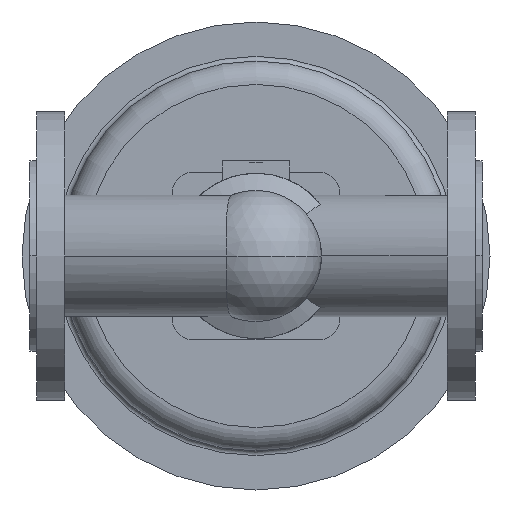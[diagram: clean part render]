
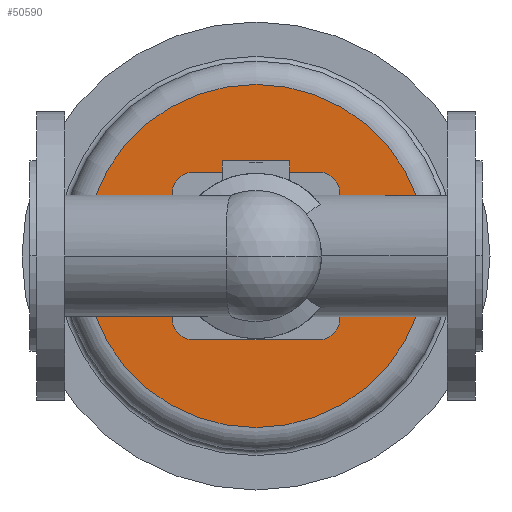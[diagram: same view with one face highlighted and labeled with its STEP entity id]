
A CAD part, front view. The second image highlights one B-rep face of the part: STEP entity #50590.
In plain terms, the highlighted planar face has unit normal (0, -1, 0).
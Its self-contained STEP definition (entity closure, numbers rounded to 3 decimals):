
#49810=CARTESIAN_POINT('',(163.45,617.5,0.));
#49820=VERTEX_POINT('',#49810);
#49850=CARTESIAN_POINT('',(145.,617.5,0.));
#49860=DIRECTION('',(0.,1.,0.));
#49870=DIRECTION('',(1.,0.,0.));
#49880=AXIS2_PLACEMENT_3D('',#49850,#49860,#49870);
#49890=CIRCLE('',#49880,18.45);
#49900=CARTESIAN_POINT('',(126.55,617.5,0.));
#49910=VERTEX_POINT('',#49900);
#49920=EDGE_CURVE('',#49820,#49910,#49890,.T.);
#50040=CARTESIAN_POINT('',(200.,617.5,0.));
#50050=DIRECTION('',(0.,-1.,0.));
#50060=DIRECTION('',(-1.,0.,0.));
#50070=AXIS2_PLACEMENT_3D('',#50040,#50050,#50060);
#50080=PLANE('',#50070);
#50090=ORIENTED_EDGE('',*,*,#49920,.T.);
#50100=EDGE_CURVE('',#49910,#49820,#49890,.T.);
#50110=ORIENTED_EDGE('',*,*,#50100,.T.);
#50120=EDGE_LOOP('',(#50110,#50090));
#50130=FACE_BOUND('',#50120,.T.);
#50140=CARTESIAN_POINT('',(95.,617.5,0.));
#50150=DIRECTION('',(0.,1.,0.));
#50160=DIRECTION('',(1.,0.,0.));
#50170=AXIS2_PLACEMENT_3D('',#50140,#50150,#50160);
#50180=CIRCLE('',#50170,15.);
#50190=CARTESIAN_POINT('',(110.,617.5,0.));
#50200=VERTEX_POINT('',#50190);
#50210=CARTESIAN_POINT('',(80.,617.5,0.));
#50220=VERTEX_POINT('',#50210);
#50230=EDGE_CURVE('',#50200,#50220,#50180,.T.);
#50240=ORIENTED_EDGE('',*,*,#50230,.T.);
#50250=EDGE_CURVE('',#50220,#50200,#50180,.T.);
#50260=ORIENTED_EDGE('',*,*,#50250,.T.);
#50270=EDGE_LOOP('',(#50260,#50240));
#50280=FACE_BOUND('',#50270,.T.);
#50290=CARTESIAN_POINT('',(195.,617.5,0.));
#50300=DIRECTION('',(0.,1.,0.));
#50310=DIRECTION('',(1.,0.,0.));
#50320=AXIS2_PLACEMENT_3D('',#50290,#50300,#50310);
#50330=CIRCLE('',#50320,15.);
#50340=CARTESIAN_POINT('',(180.,617.5,0.));
#50350=VERTEX_POINT('',#50340);
#50360=CARTESIAN_POINT('',(210.,617.5,0.));
#50370=VERTEX_POINT('',#50360);
#50380=EDGE_CURVE('',#50350,#50370,#50330,.T.);
#50390=ORIENTED_EDGE('',*,*,#50380,.T.);
#50400=EDGE_CURVE('',#50370,#50350,#50330,.T.);
#50410=ORIENTED_EDGE('',*,*,#50400,.T.);
#50420=EDGE_LOOP('',(#50410,#50390));
#50430=FACE_BOUND('',#50420,.T.);
#50440=CARTESIAN_POINT('',(145.,617.5,0.));
#50450=DIRECTION('',(0.,1.,0.));
#50460=DIRECTION('',(1.,0.,0.));
#50470=AXIS2_PLACEMENT_3D('',#50440,#50450,#50460);
#50480=CIRCLE('',#50470,110.);
#50490=CARTESIAN_POINT('',(255.,617.5,0.));
#50500=VERTEX_POINT('',#50490);
#50510=CARTESIAN_POINT('',(35.,617.5,0.));
#50520=VERTEX_POINT('',#50510);
#50530=EDGE_CURVE('',#50500,#50520,#50480,.T.);
#50540=ORIENTED_EDGE('',*,*,#50530,.F.);
#50550=EDGE_CURVE('',#50520,#50500,#50480,.T.);
#50560=ORIENTED_EDGE('',*,*,#50550,.F.);
#50570=EDGE_LOOP('',(#50560,#50540));
#50580=FACE_OUTER_BOUND('',#50570,.T.);
#50590=ADVANCED_FACE('',(#50130,#50280,#50430,#50580),#50080,.T.);
